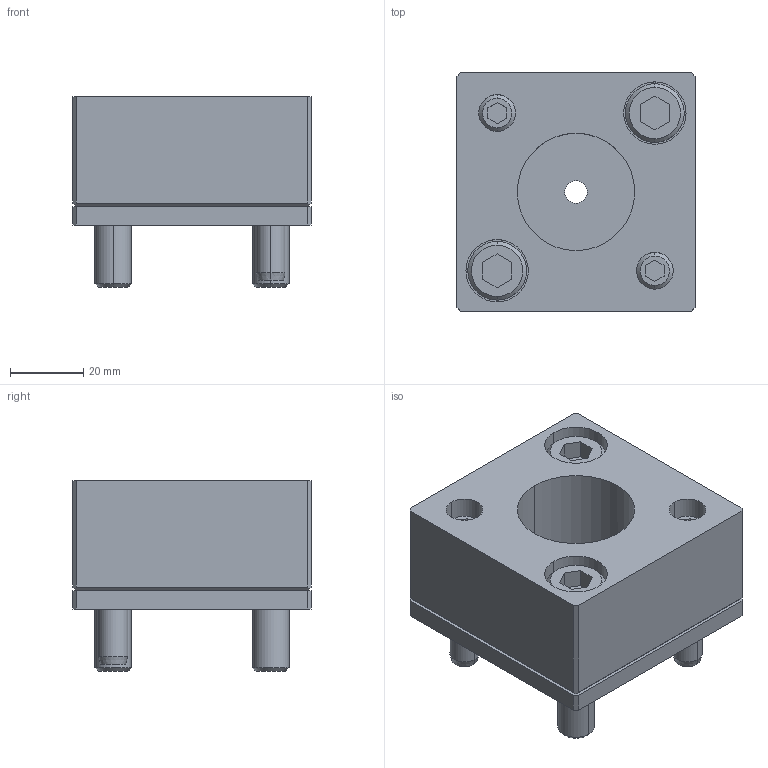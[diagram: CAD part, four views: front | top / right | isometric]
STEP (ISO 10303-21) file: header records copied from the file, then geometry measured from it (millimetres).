
FILE_DESCRIPTION(/* description */ (''),/* implementation_level */ '2;1');
FILE_NAME(/* name */ '3d_sr-ap25_03065_r00.stp',/* time_stamp */ '2011-01-10T14:09:59+09:00',/* author */ ('MISUMI'),/* organization */ (''),/* preprocessor_version */ 'ST-DEVELOPER v11',/* originating_system */ 'UGS - NX 5.0',/* authorisation */ '');
FILE_SCHEMA (('CONFIG_CONTROL_DESIGN'));
Length unit declared in the file: millimetre
Products named in the file (1): 3d_sr-ap25_03065_r00
Bounding box: 65 x 65 x 52 mm (x, y, z)
Volume: 121330.2 mm3; surface area: 38299.1 mm2
Topology: 8 solids, 8 shells, 159 faces, 358 edges, 230 vertices
Faces by surface type: plane 77, cylinder 56, cone 26
Entity records: 4588 total; most frequent: DIRECTION 812, CARTESIAN_POINT 790, ORIENTED_EDGE 716, EDGE_CURVE 358, AXIS2_PLACEMENT_3D 298, VERTEX_POINT 230, LINE 216, VECTOR 216
